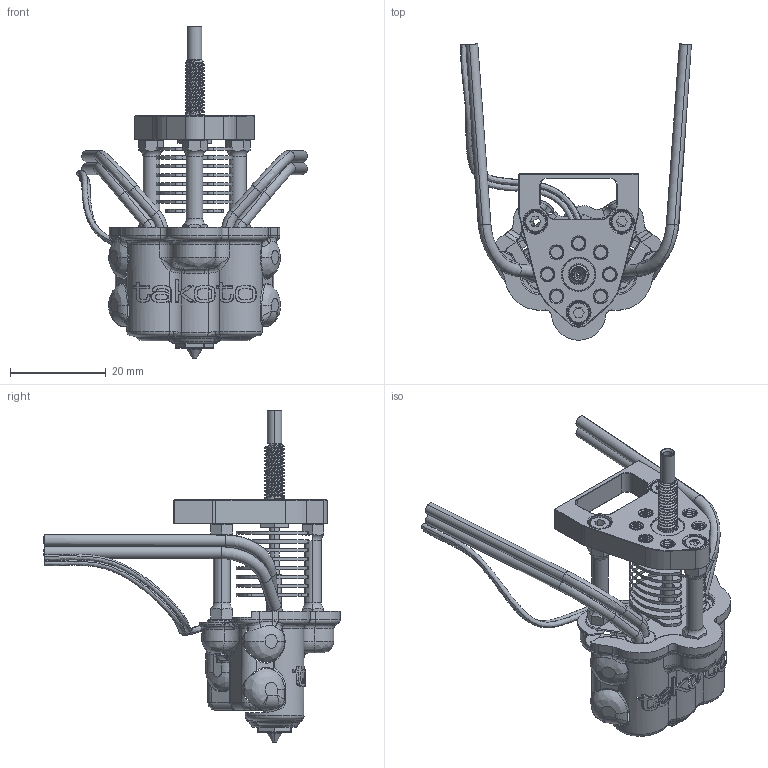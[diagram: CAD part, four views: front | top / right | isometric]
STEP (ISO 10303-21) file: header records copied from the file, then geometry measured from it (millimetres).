
FILE_DESCRIPTION((''),'2;1');
FILE_NAME('HOTEND_M4X20_A10949_WRAP','2021-10-24T22:11:00',('Ken'),('Southways Consulting Pty. Ltd.'),'CREO PARAMETRIC BY PTC INC, 2021063','CREO PARAMETRIC BY PTC INC, 2021063','');
FILE_SCHEMA(('AUTOMOTIVE_DESIGN { 1 0 10303 214 1 1 1 1 }'));
Length unit declared in the file: millimetre
Products named in the file (1): HOTEND_M4X20_A10949_WRAP
Bounding box: 48.14 x 61.78 x 69.25 mm (x, y, z)
Surface area: 10005.1 mm2 (no closed solid volume)
Topology: 0 solids, 46 shells, 780 faces, 3262 edges, 2467 vertices
Faces by surface type: cylinder 275, plane 163, bspline 149, torus 106, cone 78, extrusion 5, sphere 4
Entity records: 72609 total; most frequent: CARTESIAN_POINT 41720, ORIENTED_EDGE 4726, DIRECTION 4226, EDGE_CURVE 3262, VERTEX_POINT 2467, AXIS2_PLACEMENT_3D 1680, COLOUR_RGB 1558, B_SPLINE_CURVE_WITH_KNOTS 1352
